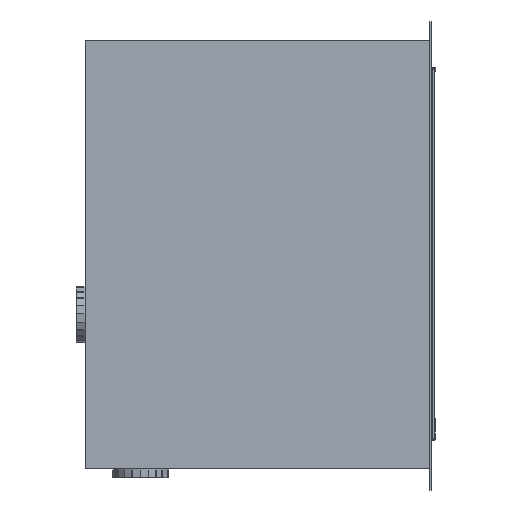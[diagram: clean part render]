
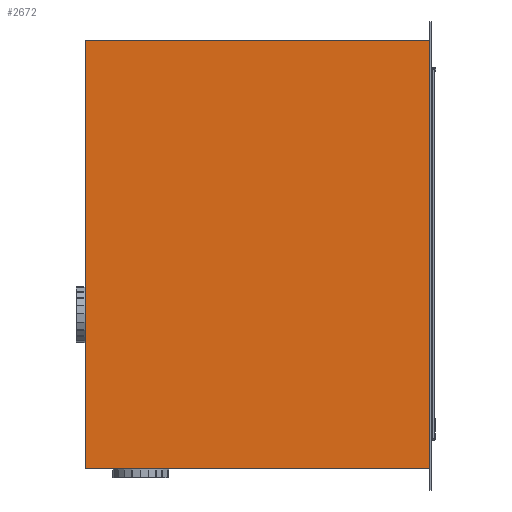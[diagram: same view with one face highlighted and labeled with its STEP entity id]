
A CAD part, left-side view. The second image highlights one B-rep face of the part: STEP entity #2672.
In plain terms, the highlighted planar face has unit normal (-1, 0, 0).
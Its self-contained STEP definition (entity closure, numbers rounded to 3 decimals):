
#2672 = ADVANCED_FACE( '', ( #5797 ), #5798, .F. );
#5797 = FACE_OUTER_BOUND( '', #12272, .T. );
#5798 = PLANE( '', #12273 );
#12272 = EDGE_LOOP( '', ( #22340, #22341, #22342, #22343 ) );
#12273 = AXIS2_PLACEMENT_3D( '', #22344, #22345, #22346 );
#22340 = ORIENTED_EDGE( '', *, *, #29597, .T. );
#22341 = ORIENTED_EDGE( '', *, *, #31062, .F. );
#22342 = ORIENTED_EDGE( '', *, *, #30573, .F. );
#22343 = ORIENTED_EDGE( '', *, *, #31063, .T. );
#22344 = CARTESIAN_POINT( '', ( -290., 0., 497. ) );
#22345 = DIRECTION( '', ( 1., 0., 0. ) );
#22346 = DIRECTION( '', ( 0., 0., -1. ) );
#29597 = EDGE_CURVE( '', #35185, #35189, #35191, .T. );
#30573 = EDGE_CURVE( '', #36675, #36670, #36677, .T. );
#31062 = EDGE_CURVE( '', #36670, #35189, #37345, .T. );
#31063 = EDGE_CURVE( '', #36675, #35185, #37346, .T. );
#35185 = VERTEX_POINT( '', #43707 );
#35189 = VERTEX_POINT( '', #43713 );
#35191 = LINE( '', #43716, #43717 );
#36670 = VERTEX_POINT( '', #46267 );
#36675 = VERTEX_POINT( '', #46274 );
#36677 = LINE( '', #46277, #46278 );
#37345 = LINE( '', #47550, #47551 );
#37346 = LINE( '', #47552, #47553 );
#43707 = CARTESIAN_POINT( '', ( -290., 0., 0. ) );
#43713 = CARTESIAN_POINT( '', ( -290., -399.5, 0. ) );
#43716 = CARTESIAN_POINT( '', ( -290., 0., 0. ) );
#43717 = VECTOR( '', #51589, 1000. );
#46267 = CARTESIAN_POINT( '', ( -290., -399.5, 497. ) );
#46274 = CARTESIAN_POINT( '', ( -290., 0., 497. ) );
#46277 = CARTESIAN_POINT( '', ( -290., 0., 497. ) );
#46278 = VECTOR( '', #52406, 1000. );
#47550 = CARTESIAN_POINT( '', ( -290., -399.5, 497. ) );
#47551 = VECTOR( '', #52764, 1000. );
#47552 = CARTESIAN_POINT( '', ( -290., 0., 497. ) );
#47553 = VECTOR( '', #52765, 1000. );
#51589 = DIRECTION( '', ( 0., -1., 0. ) );
#52406 = DIRECTION( '', ( 0., -1., 0. ) );
#52764 = DIRECTION( '', ( 0., 0., -1. ) );
#52765 = DIRECTION( '', ( 0., 0., -1. ) );
